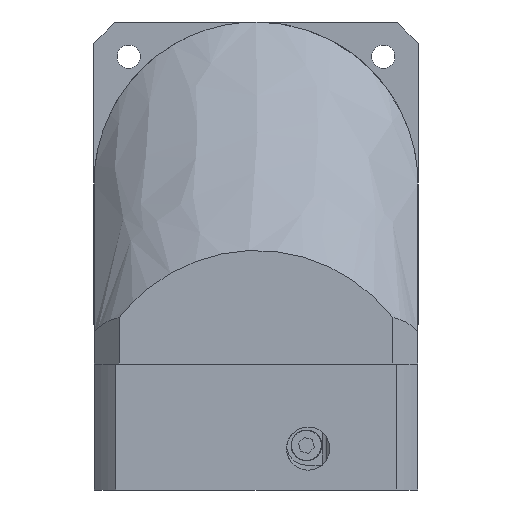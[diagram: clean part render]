
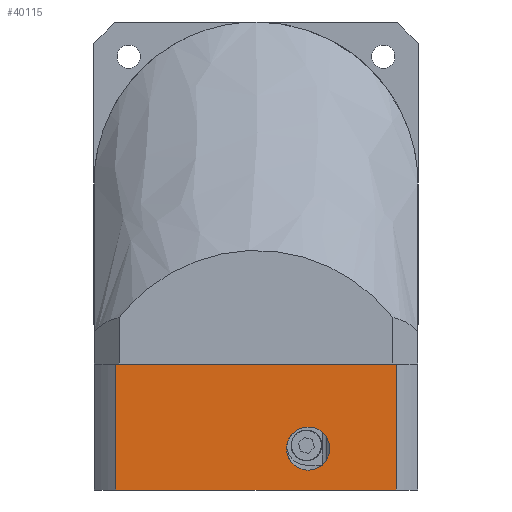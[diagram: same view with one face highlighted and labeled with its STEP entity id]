
A CAD part, front view. The second image highlights one B-rep face of the part: STEP entity #40115.
In plain terms, the highlighted planar face has unit normal (0, -1, 0) as drawn and (0, 0, 1) by its records, which use the part's own axes.
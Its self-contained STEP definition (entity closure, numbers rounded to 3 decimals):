
#1066 = CARTESIAN_POINT ( 'NONE',  ( 0., 30., 45. ) ) ;
#1078 = VECTOR ( 'NONE', #16182, 1000. ) ;
#1575 = EDGE_CURVE ( 'NONE', #37103, #38744, #4325, .T. ) ;
#4325 = LINE ( 'NONE', #14305, #14437 ) ;
#5260 = PLANE ( 'NONE',  #22149 ) ;
#5320 = VECTOR ( 'NONE', #34297, 1000. ) ;
#7833 = CARTESIAN_POINT ( 'NONE',  ( 11.5, -14.5, 45. ) ) ;
#7967 = CARTESIAN_POINT ( 'NONE',  ( 59., -38.926, 45. ) ) ;
#9085 = DIRECTION ( 'NONE',  ( 1., 0., 0. ) ) ;
#9441 = FACE_OUTER_BOUND ( 'NONE', #22991, .T. ) ;
#9908 = CARTESIAN_POINT ( 'NONE',  ( 11.5, -14.5, 45. ) ) ;
#10377 = CARTESIAN_POINT ( 'NONE',  ( 5.5, -14.5, 45. ) ) ;
#10550 = EDGE_CURVE ( 'NONE', #23375, #16252, #42279, .T. ) ;
#11652 = DIRECTION ( 'NONE',  ( 1., 0., 0. ) ) ;
#11804 = ORIENTED_EDGE ( 'NONE', *, *, #27481, .T. ) ;
#12753 = VERTEX_POINT ( 'NONE', #32163 ) ;
#13438 = CARTESIAN_POINT ( 'NONE',  ( 59., 38.926, 45. ) ) ;
#13709 = DIRECTION ( 'NONE',  ( 1., 0., 0. ) ) ;
#13926 = AXIS2_PLACEMENT_3D ( 'NONE', #7833, #34184, #11652 ) ;
#14305 = CARTESIAN_POINT ( 'NONE',  ( 35., -45., 45. ) ) ;
#14437 = VECTOR ( 'NONE', #36771, 1000. ) ;
#16182 = DIRECTION ( 'NONE',  ( 0., -1., 0. ) ) ;
#16222 = CIRCLE ( 'NONE', #13926, 6. ) ;
#16252 = VERTEX_POINT ( 'NONE', #10377 ) ;
#16264 = VERTEX_POINT ( 'NONE', #25681 ) ;
#21100 = AXIS2_PLACEMENT_3D ( 'NONE', #9908, #36191, #13709 ) ;
#21878 = ORIENTED_EDGE ( 'NONE', *, *, #39209, .T. ) ;
#22149 = AXIS2_PLACEMENT_3D ( 'NONE', #42731, #31683, #9085 ) ;
#22281 = EDGE_CURVE ( 'NONE', #16252, #23375, #16222, .T. ) ;
#22386 = CARTESIAN_POINT ( 'NONE',  ( 35., -38.926, 45. ) ) ;
#22399 = LINE ( 'NONE', #1066, #1078 ) ;
#22991 = EDGE_LOOP ( 'NONE', ( #21878, #39349, #48502, #11804 ) ) ;
#23375 = VERTEX_POINT ( 'NONE', #25175 ) ;
#23406 = ORIENTED_EDGE ( 'NONE', *, *, #10550, .T. ) ;
#23525 = LINE ( 'NONE', #13438, #32372 ) ;
#25175 = CARTESIAN_POINT ( 'NONE',  ( 17.5, -14.5, 45. ) ) ;
#25681 = CARTESIAN_POINT ( 'NONE',  ( 0., -38.926, 45. ) ) ;
#26603 = LINE ( 'NONE', #7967, #5320 ) ;
#27481 = EDGE_CURVE ( 'NONE', #12753, #16264, #22399, .T. ) ;
#29439 = EDGE_LOOP ( 'NONE', ( #23406, #44863 ) ) ;
#31683 = DIRECTION ( 'NONE',  ( 0., 0., 1. ) ) ;
#32163 = CARTESIAN_POINT ( 'NONE',  ( 0., 38.926, 45. ) ) ;
#32185 = DIRECTION ( 'NONE',  ( -1., 0., 0. ) ) ;
#32372 = VECTOR ( 'NONE', #32185, 1000. ) ;
#34184 = DIRECTION ( 'NONE',  ( 0., 0., -1. ) ) ;
#34297 = DIRECTION ( 'NONE',  ( 1., 0., 0. ) ) ;
#36191 = DIRECTION ( 'NONE',  ( 0., 0., -1. ) ) ;
#36771 = DIRECTION ( 'NONE',  ( 0., 1., 0. ) ) ;
#37103 = VERTEX_POINT ( 'NONE', #22386 ) ;
#38255 = FACE_BOUND ( 'NONE', #29439, .T. ) ;
#38744 = VERTEX_POINT ( 'NONE', #41688 ) ;
#39209 = EDGE_CURVE ( 'NONE', #16264, #37103, #26603, .T. ) ;
#39349 = ORIENTED_EDGE ( 'NONE', *, *, #1575, .T. ) ;
#40115 = ADVANCED_FACE ( 'NONE', ( #9441, #38255 ), #5260, .T. ) ;
#41688 = CARTESIAN_POINT ( 'NONE',  ( 35., 38.926, 45. ) ) ;
#42279 = CIRCLE ( 'NONE', #21100, 6. ) ;
#42490 = EDGE_CURVE ( 'NONE', #38744, #12753, #23525, .T. ) ;
#42731 = CARTESIAN_POINT ( 'NONE',  ( 59., -45., 45. ) ) ;
#44863 = ORIENTED_EDGE ( 'NONE', *, *, #22281, .T. ) ;
#48502 = ORIENTED_EDGE ( 'NONE', *, *, #42490, .T. ) ;
